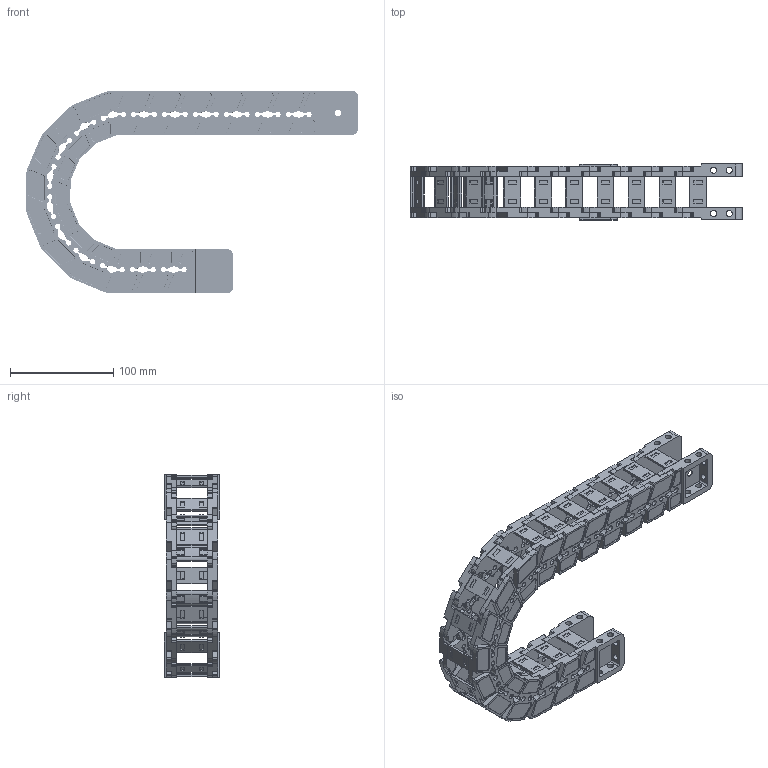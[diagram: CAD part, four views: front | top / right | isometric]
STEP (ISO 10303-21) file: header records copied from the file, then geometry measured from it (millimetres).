
FILE_DESCRIPTION((''),'2;1');
FILE_NAME('JY-35X30-R75_ASM','2025-01-05T18:58:34',('admin'),(''),'CREO PARAMETRIC BY PTC INC, 2021023','CREO PARAMETRIC BY PTC INC, 2021023','');
FILE_SCHEMA(('CONFIG_CONTROL_DESIGN'));
Length unit declared in the file: millimetre
Products named in the file (11): 35XL-L; YP; 35XL-R; ASM0001_ASM; 35-LTT-A-L; 35-LTT-A-R; 35XL-LTT-A_ASM; 35-LTT-B-L; 35-LTT-B-R; 35XL-LTT-B_ASM; JY-35X30-R75_ASM
Assembly tree (29 placements, depth 3):
  JY-35X30-R75_ASM
    ASM0001_ASM  x15
      35XL-L
      YP
      35XL-R
    35XL-LTT-A_ASM
      35-LTT-A-L
      YP  x2
      35-LTT-A-R
    35XL-LTT-B_ASM
      35-LTT-B-L
      YP  x2
      35-LTT-B-R
Bounding box: 321.72 x 54 x 196.34 mm (x, y, z)
Volume: 420022.9 mm3; surface area: 244366 mm2
Topology: 68 solids, 68 shells, 5536 faces, 16584 edges, 11192 vertices
Faces by surface type: plane 3130, cylinder 1830, cone 352, extrusion 128, bspline 96
Entity records: 27842 total; most frequent: CARTESIAN_POINT 6162, ORIENTED_EDGE 4640, DIRECTION 4353, EDGE_CURVE 2320, VERTEX_POINT 1568, AXIS2_PLACEMENT_3D 1468, VECTOR 1417, LINE 1401
